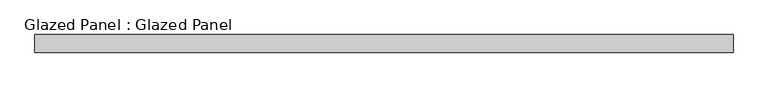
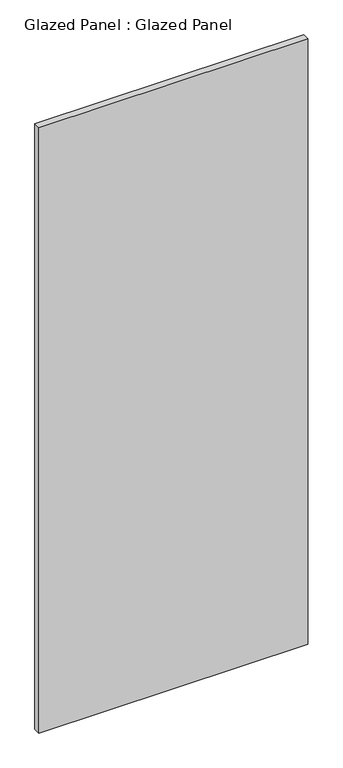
"""IFC4 building model written with IfcOpenShell, lengths in millimetres: plate geometry, Glazed Panel : Glazed Panel."""

import ifcopenshell
import ifcopenshell.guid

model = None  # the IFC model being written
_history = None  # IfcOwnerHistory: only IFC2X3 demands one
_inside = {}  # id of a spatial element -> (the spatial element, [elements in it])
_under = {}  # id of a project, library or spatial element -> (it, [spatial elements below it])
_declared = {}  # id of a project -> (the project, [libraries it declares])
_typed = {}  # id of a type object -> (the type object, [elements of that type])
_made_of = {}  # id of a material, layer set ... -> (it, [elements and type objects made of it])


def new_model(schema):
    """Start an empty IFC model of exactly this schema.

    Asked for "IFC4X3", IfcOpenShell would pick the latest addendum, in which some entities
    have other attributes; the version numbers below select the first issue.
    IFC2X3 requires an IfcOwnerHistory on every rooted entity: one is made here for all.
    """
    global model, _history
    if schema == "IFC4X3":
        model = ifcopenshell.file(schema_version=(4, 3, 0, 0))
    else:
        model = ifcopenshell.file(schema=schema)
    _inside.clear()
    _under.clear()
    _declared.clear()
    _typed.clear()
    _made_of.clear()
    _history = None
    if model.schema == "IFC2X3":
        org = make("IfcOrganization", Name="unknown")
        user = make(
            "IfcPersonAndOrganization",
            ThePerson=make("IfcPerson", FamilyName="unknown"),
            TheOrganization=org,
        )
        app = make(
            "IfcApplication",
            ApplicationDeveloper=org,
            Version="unknown",
            ApplicationFullName="unknown",
            ApplicationIdentifier="unknown",
        )
        _history = make(
            "IfcOwnerHistory",
            OwningUser=user,
            OwningApplication=app,
            ChangeAction="ADDED",
            CreationDate=0,
        )
    return model


def make(cls, **values):
    """One entity of the class cls with the attributes given. An attribute that is None is left unset."""
    return model.create_entity(
        cls, **{name: value for name, value in values.items() if value is not None}
    )


def rooted(cls, **values):
    """An entity with a GlobalId (a new one), such as an element, a storey or a relation."""
    return make(cls, GlobalId=ifcopenshell.guid.new(), OwnerHistory=_history, **values)


def si_unit(unit_type, name, prefix=None):
    """IfcSIUnit, for example si_unit("LENGTHUNIT", "METRE", prefix="MILLI")."""
    return make("IfcSIUnit", UnitType=unit_type, Prefix=prefix, Name=name)


def assignment(units):
    """IfcUnitAssignment: the units of a project."""
    return None if units is None else make("IfcUnitAssignment", Units=units)


def point(xyz):
    """IfcCartesianPoint."""
    return None if xyz is None else make("IfcCartesianPoint", Coordinates=xyz)


def direction(xyz):
    """IfcDirection."""
    return None if xyz is None else make("IfcDirection", DirectionRatios=xyz)


def frame(location, z_axis=None, x_axis=None):
    """IfcAxis2Placement3D, a coordinate frame: its origin and axes. An axis left out is left unset."""
    return make(
        "IfcAxis2Placement3D",
        Location=point(location),
        Axis=direction(z_axis),
        RefDirection=direction(x_axis),
    )


def origin():
    """The frame at (0, 0, 0) with its axes left unset."""
    return frame((0.0, 0.0, 0.0))


def origin_with_axes():
    """The frame at (0, 0, 0) with the z axis (0, 0, 1) and the x axis (1, 0, 0) written out."""
    return frame((0.0, 0.0, 0.0), z_axis=(0.0, 0.0, 1.0), x_axis=(1.0, 0.0, 0.0))


def place(relative_to, where):
    """IfcLocalPlacement: puts the frame where relative to a parent placement (None: the world)."""
    return make(
        "IfcLocalPlacement", PlacementRelTo=relative_to, RelativePlacement=where
    )


def context(
    kind, dimensions, precision=None, world=None, true_north=None, identifier=None
):
    """IfcGeometricRepresentationContext, for example the 3D "Model" context."""
    return make(
        "IfcGeometricRepresentationContext",
        ContextIdentifier=identifier,
        ContextType=kind,
        CoordinateSpaceDimension=dimensions,
        Precision=precision,
        WorldCoordinateSystem=world,
        TrueNorth=true_north,
    )


def project(units=None, contexts=None):
    """IfcProject with its units and contexts."""
    return rooted(
        "IfcProject",
        Name="project",
        RepresentationContexts=contexts,
        UnitsInContext=assignment(units),
    )


def spatial(cls, under=None, at=None, **own):
    """A site, building, storey or space (cls), placed at a placement, below another one or the project."""
    s = rooted(cls, ObjectPlacement=at, **own)
    if under is not None:
        _under.setdefault(under.id(), (under, []))[1].append(s)
    return s


def polyline(points):
    """IfcPolyline through the points."""
    return make("IfcPolyline", Points=[point(p) for p in points])


def outline(outer, holes=None, kind="AREA"):
    """IfcArbitraryClosedProfileDef: a profile drawn as a closed curve; with holes, ...WithVoids."""
    if holes is None:
        return make("IfcArbitraryClosedProfileDef", ProfileType=kind, OuterCurve=outer)
    return make(
        "IfcArbitraryProfileDefWithVoids",
        ProfileType=kind,
        OuterCurve=outer,
        InnerCurves=holes,
    )


def extrude(swept, where, along, depth):
    """IfcExtrudedAreaSolid: the profile swept, set in the frame where, extruded along a direction by depth."""
    return make(
        "IfcExtrudedAreaSolid",
        SweptArea=swept,
        Position=where,
        ExtrudedDirection=direction(along),
        Depth=depth,
    )


def shape(context_of_items, identifier, shape_type, items):
    """IfcShapeRepresentation: the items that make up one representation, for example the "Body"."""
    return make(
        "IfcShapeRepresentation",
        ContextOfItems=context_of_items,
        RepresentationIdentifier=identifier,
        RepresentationType=shape_type,
        Items=items,
    )


def source(mapping_origin, context_of_items, identifier, shape_type, items):
    """IfcRepresentationMap: a shape defined once, which mapped items show again and again."""
    return make(
        "IfcRepresentationMap",
        MappingOrigin=mapping_origin,
        MappedRepresentation=shape(context_of_items, identifier, shape_type, items),
    )


def transform(
    local_origin,
    x_axis=None,
    y_axis=None,
    z_axis=None,
    scale=None,
    scale2=None,
    scale3=None,
    uniform=True,
):
    """IfcCartesianTransformationOperator3D, or its non-uniform kind. x_axis, y_axis, z_axis: its Axis1, 2, 3."""
    if uniform:
        return make(
            "IfcCartesianTransformationOperator3D",
            Axis1=direction(x_axis),
            Axis2=direction(y_axis),
            LocalOrigin=point(local_origin),
            Scale=scale,
            Axis3=direction(z_axis),
        )
    return make(
        "IfcCartesianTransformationOperator3DnonUniform",
        Axis1=direction(x_axis),
        Axis2=direction(y_axis),
        LocalOrigin=point(local_origin),
        Scale=scale,
        Axis3=direction(z_axis),
        Scale2=scale2,
        Scale3=scale3,
    )


def mapped(mapping_source, mapping_target):
    """IfcMappedItem: shows the shape of a source again, moved by a transform."""
    return make(
        "IfcMappedItem", MappingSource=mapping_source, MappingTarget=mapping_target
    )


def made_of(thing, what):
    """Note that an element or type object is made of a material, layer set ...; save() writes the relation."""
    if what is not None:
        _made_of.setdefault(what.id(), (what, []))[1].append(thing)
    return thing


def element(
    cls,
    number,
    at=None,
    inside=None,
    cuts=None,
    type_object=None,
    material=None,
    context=None,
    identifier="Body",
    shape_type=None,
    held_by="IfcProductDefinitionShape",
    body=None,
    shapes=None,
    **own,
):
    """One element of the class cls, such as IfcWall. Its Tag is "e" and its number.

    at: its placement. inside: the storey or other place that contains it. cuts: it is an
    opening in that element (IfcRelVoidsElement). A single representation is given by context,
    identifier, shape_type and body (its items); several are given by shapes. held_by: the class
    of the entity that holds the representations. save() writes the other relations.
    """
    e = rooted(cls, Tag="e%d" % number, ObjectPlacement=at, **own)
    if body is not None:
        shapes = [shape(context, identifier, shape_type, body)]
    if shapes is not None:
        e.Representation = make(held_by, Representations=shapes)
    if inside is not None:
        _inside.setdefault(inside.id(), (inside, []))[1].append(e)
    if cuts is not None:
        rooted(
            "IfcRelVoidsElement", RelatingBuildingElement=cuts, RelatedOpeningElement=e
        )
    if type_object is not None:
        _typed.setdefault(type_object.id(), (type_object, []))[1].append(e)
    return made_of(e, material)


def aggregate(whole, parts):
    """IfcRelAggregates: a whole, such as a stair, and the parts it consists of."""
    return rooted("IfcRelAggregates", RelatingObject=whole, RelatedObjects=parts)


def save(model, path):
    """Write the relations noted so far, then the file.

    IfcRelAggregates (storeys below a building ...), IfcRelContainedInSpatialStructure (elements
    in a storey), IfcRelDefinesByType, IfcRelAssociatesMaterial and IfcRelDeclares: one each for
    every whole, place, type object, material and project.
    """
    for whole, parts in _under.values():
        aggregate(whole, parts)
    for where, things in _inside.values():
        rooted(
            "IfcRelContainedInSpatialStructure",
            RelatedElements=things,
            RelatingStructure=where,
        )
    for kind, things in _typed.values():
        rooted("IfcRelDefinesByType", RelatedObjects=things, RelatingType=kind)
    for what, things in _made_of.values():
        rooted("IfcRelAssociatesMaterial", RelatedObjects=things, RelatingMaterial=what)
    for by, libraries in _declared.values():
        rooted("IfcRelDeclares", RelatingContext=by, RelatedDefinitions=libraries)
    model.write(path)


def glazed_panel_glazed_panel_b2ebe934(model_context):
    return source(origin(), model_context, "Body", "SweptSolid", [
        extrude(outline(polyline([(498.7728003, -38.1), (498.7728003, -63.5), (-498.7728003, -63.5), (-498.7728003, -38.1), (498.7728003, -38.1)])), origin_with_axes(), (0.0, 0.0, 1.0), 2374.9),
    ])


if __name__ == "__main__":
    model = new_model("IFC4")
    model_context = context("Model", 3, world=origin())
    ifc_project = project(units=[si_unit("LENGTHUNIT", "METRE", prefix="MILLI")], contexts=[model_context])
    site = spatial("IfcSite", under=ifc_project)
    building = spatial("IfcBuilding", under=site)
    placement = place(None, origin())
    glazed_panel_glazed_panel_shape = glazed_panel_glazed_panel_b2ebe934(model_context)
    element("IfcPlate", 1, ObjectType="Glazed Panel : Glazed Panel", at=placement, inside=building, context=model_context, shape_type="MappedRepresentation", body=[
        mapped(glazed_panel_glazed_panel_shape, transform((0.0, 0.0, 0.0), x_axis=(1.0, 0.0, 0.0), y_axis=(0.0, 1.0, 0.0), z_axis=(0.0, 0.0, 1.0))),
    ])
    save(model, "model.ifc")
